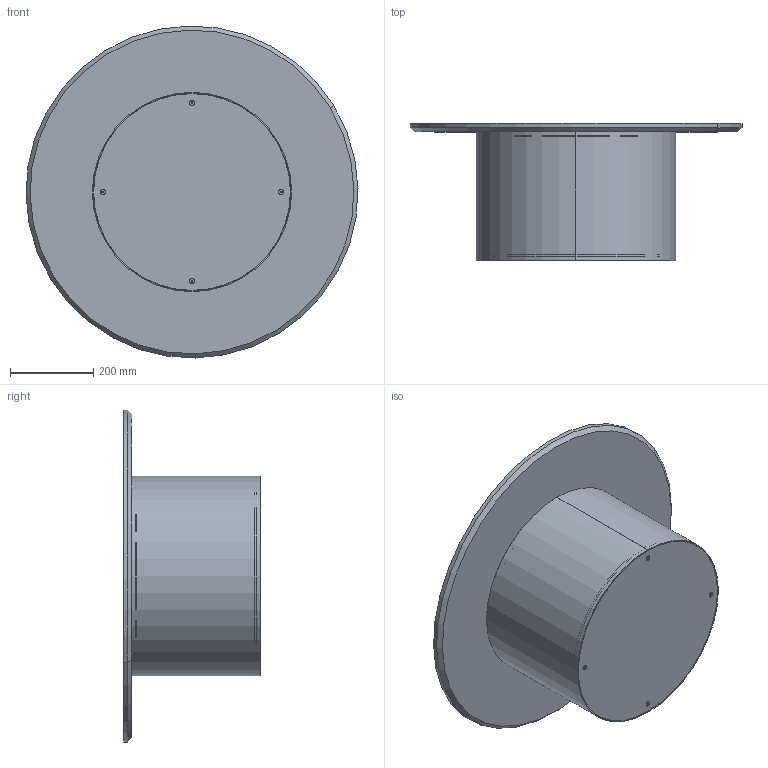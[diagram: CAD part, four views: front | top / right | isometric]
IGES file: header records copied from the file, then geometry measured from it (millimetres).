
Start section: SolidWorks IGES file using analytic representation for surfaces
Global section: file name: Y:\eforma\TECNICO\SOLIDWORKS\E-FORMA\2-TAVOLINI\CILINDRO LOW\02 parts\CL12M.IGS; native system: SolidWorks 2022; preprocessor: SolidWorks 2022; author: eforma.tech; date: 240806.121316; units: millimetre
Bounding box: 799.8 x 330 x 799.8 mm (x, y, z)
Volume: 13444656.1 mm3; surface area: 2735916.8 mm2
Topology: 16 solids, 16 shells, 381 faces, 831 edges, 470 vertices
Faces by surface type: revolution 213, plane 166, bspline 2
